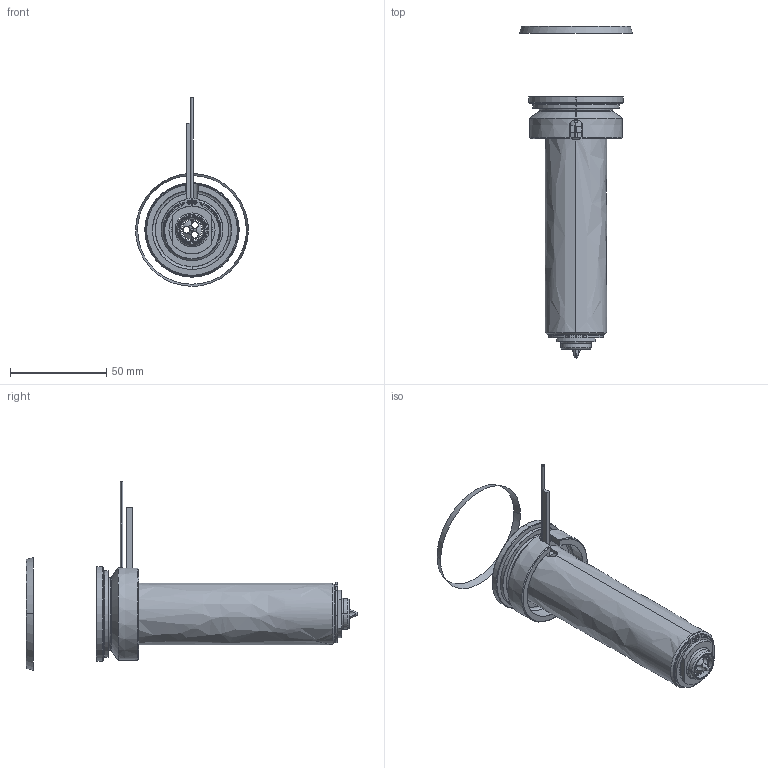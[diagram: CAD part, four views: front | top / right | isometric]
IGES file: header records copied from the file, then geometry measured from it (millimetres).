
Start section: SolidWorks IGES file using analytic representation for surfaces
Global section: file name: C:\Documents and Settings\ws-20\Desktop\TEM\UGEP5003-S-A-0 [Øf-1.36 ØC-13].IGS; native system: SolidWorks 2012; preprocessor: SolidWorks 2012; author: ws-20; date: 120426.101937; units: millimetre
Bounding box: 58.57 x 172.24 x 97.91 mm (x, y, z)
Surface area: 51896.3 mm2 (no closed solid volume)
Topology: 0 solids, 0 shells, 126 faces, 2386 edges, 2386 vertices
Faces by surface type: revolution 81, bspline 45
